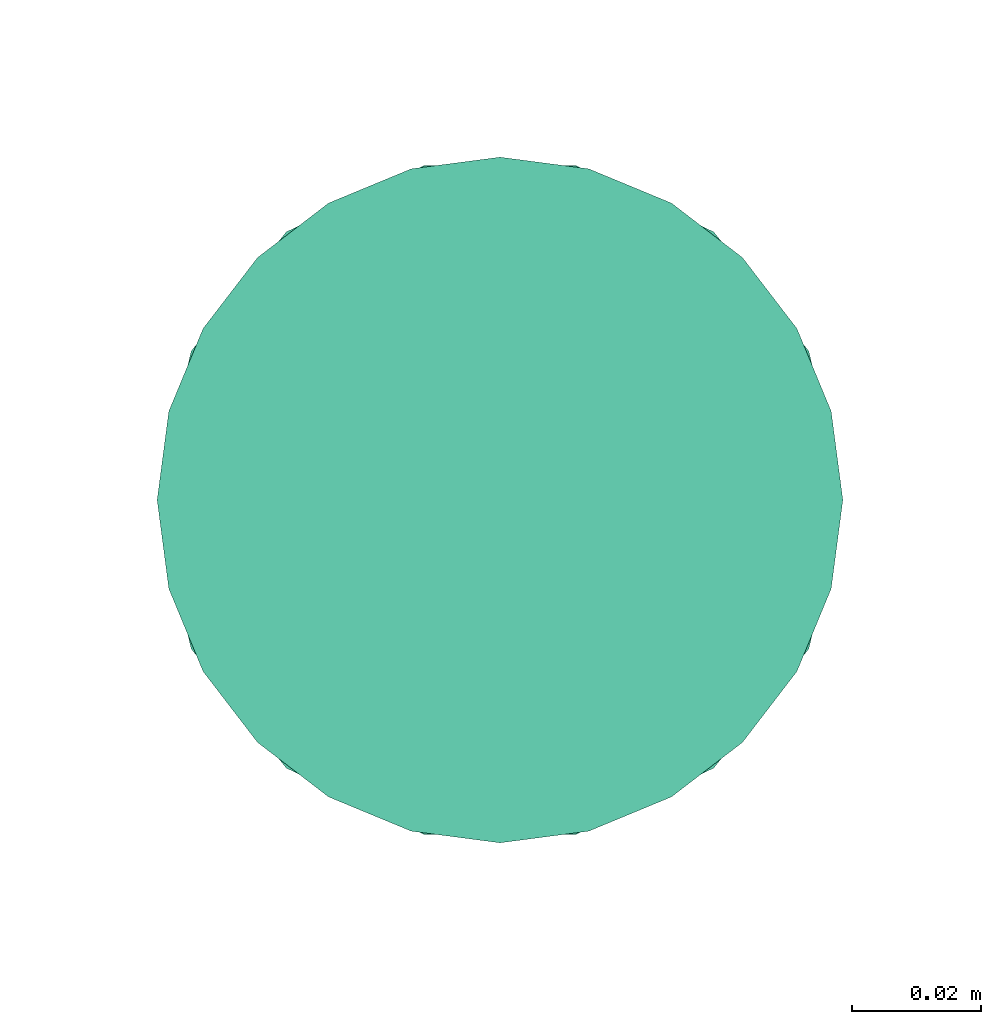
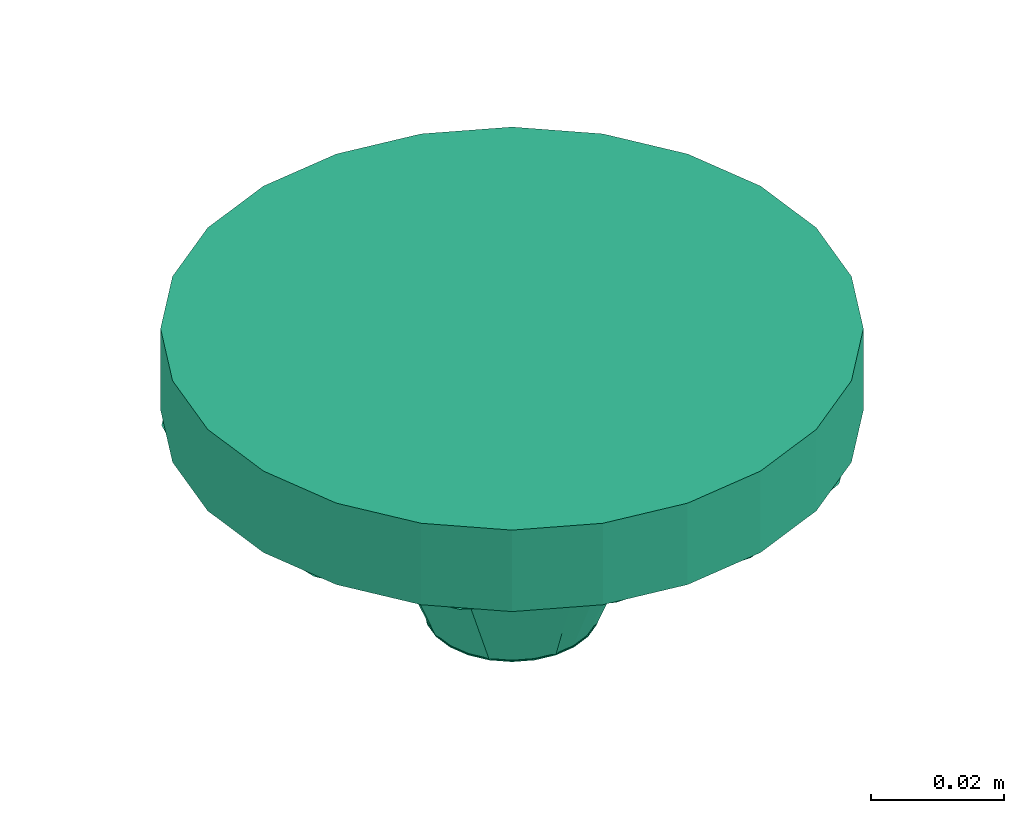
# One storey, part 3 of 4: 1 distribution control element.
"""IFC2X3 building model written with IfcOpenShell, lengths in millimetres."""

from ifc_helpers import new_model, entity, si_unit, converted_unit, derived_unit, direction, frame, origin_with_axes, place, context, subcontext, project, spatial, open_shell, surface_model, source, transform, mapped, type_object, element, save


model = new_model("IFC2X3")

# Units and contexts
model_context = context("Model", 3, precision=0.01, world=frame((0.0, 4.29681676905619e-09, 0.0)), true_north=direction((4.01073788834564e-13, 1.0)))
plan_context = context("Plan", 3, precision=0.01, world=frame((0.0, 4.29681676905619e-09, 0.0)), true_north=direction((4.01073788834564e-13, 1.0)))
body_context = subcontext(model_context, "Body", "Model", "MODEL_VIEW")
ifc_project = project(units=[converted_unit("PLANEANGLEUNIT", "DEGREE", entity("IfcPositiveLengthMeasure", 0.0174532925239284), si_unit("PLANEANGLEUNIT", "RADIAN"), dimensions=[0, 0, 0, 0, 0, 0, 0]), si_unit("AREAUNIT", "SQUARE_METRE"), si_unit("LENGTHUNIT", "METRE", prefix="MILLI"), si_unit("MASSUNIT", "GRAM", prefix="KILO"), si_unit("POWERUNIT", "WATT"), si_unit("PRESSUREUNIT", "PASCAL", prefix="KILO"), si_unit("FORCEUNIT", "NEWTON", prefix="KILO"), si_unit("ELECTRICVOLTAGEUNIT", "VOLT"), si_unit("ELECTRICCURRENTUNIT", "AMPERE"), si_unit("THERMODYNAMICTEMPERATUREUNIT", "DEGREE_CELSIUS"), si_unit("TIMEUNIT", "SECOND"), si_unit("VOLUMEUNIT", "CUBIC_METRE"), derived_unit("LINEARVELOCITYUNIT", [(si_unit("LENGTHUNIT", "METRE"), 1), (si_unit("TIMEUNIT", "SECOND"), -1)]), derived_unit("VOLUMETRICFLOWRATEUNIT", [(si_unit("VOLUMEUNIT", "CUBIC_METRE"), 1), (si_unit("TIMEUNIT", "SECOND"), -1)]), derived_unit("THERMALTRANSMITTANCEUNIT", [(si_unit("POWERUNIT", "WATT"), 1), (si_unit("THERMODYNAMICTEMPERATUREUNIT", "KELVIN"), -1), (si_unit("AREAUNIT", "SQUARE_METRE"), -1)]), derived_unit("SOUNDPRESSUREUNIT", [(si_unit("PRESSUREUNIT", "PASCAL"), 1)])], contexts=[model_context, plan_context])

# Site, building, storey
site_placement = place(None, frame((0.0, -4.29681676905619e-09, 0.0), z_axis=(0.0, 0.0, 1.0), x_axis=(1.0, 0.0, 0.0)))
site = spatial("IfcSite", under=ifc_project, at=site_placement, Name="ENGM", CompositionType="ELEMENT")
building_placement = place(site_placement, frame((0.0, 4.29681676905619e-09, 0.0), z_axis=(0.0, 0.0, 1.0), x_axis=(1.0, 0.0, 0.0)))
building = spatial("IfcBuilding", under=site, at=building_placement, Name="TS", CompositionType="ELEMENT")
storey_placement = place(building_placement, frame((0.0, 0.0, 210900.0), z_axis=(0.0, 0.0, 1.0), x_axis=(1.0, 0.0, 0.0)))
storey = spatial("IfcBuildingStorey", under=building, at=storey_placement, Name="Nivå F", CompositionType="ELEMENT", Elevation=210900.0)

# Distribution control element
alarm_type = type_object("IfcAlarmType", Name="Standard", PredefinedType="NOTDEFINED")
shared_shape = source(origin_with_axes(), body_context, "Body", "SurfaceModel", [
    surface_model("IfcShellBasedSurfaceModel", [(3.42935, -12.79852, -51.9), (6.625, -11.47484, -51.9), (9.36916, -9.36916, -51.9), (-6.625, -11.47484, -51.9), (12.79852, 3.42935, -51.9), (12.79852, -3.42935, -51.9), (11.47484, -6.625, -51.9), (-3.42935, -12.79852, -51.9), (0.0, -13.25, -51.9), (-9.36916, -9.36916, -51.9), (-13.25, 0.0, -51.9), (-11.47484, -6.625, -51.9), (-12.79852, 3.42935, -51.9), (-12.79852, -3.42935, -51.9), (13.25, 0.0, -51.9), (0.0, 13.25, -51.9), (11.47484, 6.625, -51.9), (9.36916, 9.36916, -51.9), (6.625, 11.47484, -51.9), (3.42935, 12.79852, -51.9), (-6.625, 11.47484, -51.9), (-9.36916, 9.36916, -51.9), (-11.47484, 6.625, -51.9), (-3.42935, 12.79852, -51.9), (0.0, 13.25, -52.1), (3.42935, 12.79852, -52.1), (6.625, 11.47484, -52.1), (-12.79852, 3.42935, -52.1), (11.47484, 6.625, -52.1), (12.79852, 3.42935, -52.1), (9.36916, 9.36916, -52.1), (-6.625, 11.47484, -52.1), (-9.36916, 9.36916, -52.1), (-3.42935, 12.79852, -52.1), (-11.47484, 6.625, -52.1), (-9.36916, -9.36916, -52.1), (-13.25, 0.0, -52.1), (-6.625, -11.47484, -52.1), (12.79852, -3.42935, -52.1), (9.36916, -9.36916, -52.1), (11.47484, -6.625, -52.1), (6.625, -11.47484, -52.1), (3.42935, -12.79852, -52.1), (-3.42935, -12.79852, -52.1), (-11.47484, -6.625, -52.1), (-12.79852, -3.42935, -52.1), (0.0, -13.25, -52.1), (13.25, 0.0, -52.1), (-20.25421, 16.43708, -19.0), (-13.15, 22.77647, -19.0), (-18.59691, 18.59691, -19.0), (-25.40385, 6.80694, -19.0), (-26.16376, 1.03484, -19.0), (-21.82398, 14.3913, -19.0), (-26.5, 0.0, -19.0), (-26.3, 0.0, -19.0), (-21.43895, 15.57631, -19.0), (-9.37871, 24.33859, -19.0), (9.37871, 24.33859, -19.0), (20.25421, 16.43708, -19.0), (13.15, 22.77647, -19.0), (-7.29184, 25.203, -19.0), (0.0, 26.3, -19.0), (-6.80694, 25.40385, -19.0), (7.29184, 25.203, -19.0), (21.82398, 14.3913, -19.0), (25.40385, 6.80694, -19.0), (22.77647, 13.15, -19.0), (8.18895, 25.203, -19.0), (26.5, 0.0, -19.0), (26.16376, 1.03484, -19.0), (26.3, 0.0, -19.0), (25.40385, -6.80694, -19.0), (21.82398, -14.3913, -19.0), (22.77647, -13.15, -19.0), (8.18895, -25.203, -19.0), (9.37871, -24.33859, -19.0), (7.29184, -25.203, -19.0), (6.80694, 25.40385, -19.0), (-26.16376, -1.03484, -19.0), (-22.77647, 13.15, -19.0), (-13.15, -22.77647, -19.0), (-9.37871, -24.33859, -19.0), (-20.25421, -16.43708, -19.0), (-25.40385, -6.80694, -19.0), (-21.82398, -14.3913, -19.0), (0.0, -26.3, -19.0), (6.80694, -25.40385, -19.0), (-7.29184, -25.203, -19.0), (-8.18895, -25.203, -19.0), (26.16376, -1.03484, -19.0), (-18.59691, -18.59691, -19.0), (21.43895, -15.57631, -19.0), (20.25421, -16.43708, -19.0), (13.15, -22.77647, -19.0), (18.59691, -18.59691, -19.0), (-8.18895, 25.203, -19.0), (-6.80694, -25.40385, -19.0), (-21.43895, -15.57631, -19.0), (-22.77647, -13.15, -19.0), (18.59691, 18.59691, -19.0), (21.43895, 15.57631, -19.0), (0.70781, 12.95681, -52.0), (0.0, 13.05, -52.0), (0.0, 13.25, -52.0), (3.37759, 12.60533, -52.0), (6.525, 11.30163, -52.0), (8.66135, 9.66235, -52.0), (9.36916, 9.36916, -52.0), (9.66235, 8.66135, -52.0), (9.22774, 9.22774, -52.0), (12.95681, 0.70781, -52.0), (13.25, 0.0, -52.0), (13.05, 0.0, -52.0), (12.60533, 3.37759, -52.0), (11.30163, 6.525, -52.0), (-13.05, 0.0, -52.0), (-12.95681, -0.70781, -52.0), (-13.25, 0.0, -52.0), (-6.525, 11.30163, -52.0), (-3.37759, 12.60533, -52.0), (-0.70781, 12.95681, -52.0), (-8.66135, 9.66235, -52.0), (-9.22774, 9.22774, -52.0), (-9.36916, 9.36916, -52.0), (-11.30163, 6.525, -52.0), (-9.66235, 8.66135, -52.0), (-12.60533, 3.37759, -52.0), (-12.95681, 0.70781, -52.0), (-11.30163, -6.525, -52.0), (-9.66235, -8.66135, -52.0), (12.95681, -0.70781, -52.0), (11.30163, -6.525, -52.0), (9.66235, -8.66135, -52.0), (9.36916, -9.36916, -52.0), (9.22774, -9.22774, -52.0), (8.66135, -9.66235, -52.0), (3.37759, -12.60533, -52.0), (0.70781, -12.95681, -52.0), (0.0, -13.25, -52.0), (0.0, -13.05, -52.0), (12.60533, -3.37759, -52.0), (-0.70781, -12.95681, -52.0), (-12.60533, -3.37759, -52.0), (-9.22774, -9.22774, -52.0), (-9.36916, -9.36916, -52.0), (-6.525, -11.30163, -52.0), (-3.37759, -12.60533, -52.0), (6.525, -11.30163, -52.0), (-8.66135, -9.66235, -52.0), (10.33937, -7.02687, -52.0), (-11.30958, -4.68458, -52.0), (-23.96948, -7.78815, -19.0), (11.30958, -4.68458, -52.0), (23.96948, -7.78815, -19.0), (22.70421, -11.68223, -19.0), (-14.81395, -20.38965, -19.0), (-7.02687, -10.33937, -52.0), (-4.68458, -11.30958, -52.0), (-2.34229, -12.27979, -52.0), (0.0, -25.203, -19.0), (2.34229, -12.27979, -52.0), (-10.33937, -7.02687, -52.0), (4.68458, -11.30958, -52.0), (12.27979, -2.34229, -52.0), (14.81395, -20.38965, -19.0), (7.02687, -10.33937, -52.0), (-12.27979, -2.34229, -52.0), (-10.33937, 7.02687, -52.0), (11.30958, 4.68458, -52.0), (23.96948, 7.78815, -19.0), (-11.30958, 4.68458, -52.0), (-23.96948, 7.78815, -19.0), (-22.70421, 11.68223, -19.0), (14.81395, 20.38965, -19.0), (7.02687, 10.33937, -52.0), (4.68458, 11.30958, -52.0), (2.34229, 12.27979, -52.0), (0.0, 25.203, -19.0), (-2.34229, 12.27979, -52.0), (10.33937, 7.02687, -52.0), (-4.68458, 11.30958, -52.0), (-12.27979, 2.34229, -52.0), (-14.81395, 20.38965, -19.0), (-7.02687, 10.33937, -52.0), (12.27979, 2.34229, -52.0), (-11.79361, 51.67118, -15.0), (-33.04496, 41.43707, -15.0), (-47.75135, 22.99584, -15.0), (11.79361, -51.67118, -15.0), (11.79361, 51.67118, -15.0), (47.75135, 22.99584, -15.0), (33.04496, 41.43707, -15.0), (47.75135, -22.99584, -15.0), (-53.0, 0.0, -15.0), (-47.75135, -22.99584, -15.0), (-33.04496, -41.43707, -15.0), (-11.79361, -51.67118, -15.0), (53.0, 0.0, -15.0), (33.04496, -41.43707, -15.0), (-40.39816, -32.21645, -15.0), (-22.41928, -46.55413, -15.0), (-50.37568, -11.49792, -15.0), (22.41928, -46.55413, -15.0), (50.37568, -11.49792, -15.0), (40.39816, -32.21645, -15.0), (0.0, -51.67118, -15.0), (40.39816, 32.21645, -15.0), (22.41928, 46.55413, -15.0), (50.37568, 11.49792, -15.0), (-22.41928, 46.55413, -15.0), (-50.37568, 11.49792, -15.0), (-40.39816, 32.21645, -15.0), (0.0, 51.67118, -15.0), (13.71741, -51.19407, 0.0), (26.5, -45.89935, 0.0), (37.47666, -37.47666, 0.0), (-26.5, -45.89935, 0.0), (51.19407, 13.71741, 0.0), (51.19407, -13.71741, 0.0), (45.89935, -26.5, 0.0), (-13.71741, -51.19407, 0.0), (0.0, -53.0, 0.0), (-37.47666, -37.47666, 0.0), (-53.0, 0.0, 0.0), (-45.89935, -26.5, 0.0), (-51.19407, 13.71741, 0.0), (-51.19407, -13.71741, 0.0), (53.0, 0.0, 0.0), (0.0, 53.0, 0.0), (45.89935, 26.5, 0.0), (37.47666, 37.47666, 0.0), (26.5, 45.89935, 0.0), (13.71741, 51.19407, 0.0), (-26.5, 45.89935, 0.0), (-37.47666, 37.47666, 0.0), (-45.89935, 26.5, 0.0), (-13.71741, 51.19407, 0.0), (0.0, 53.0, -15.0), (13.71741, 51.19407, -15.0), (26.5, 45.89935, -15.0), (-51.19407, 13.71741, -15.0), (45.89935, 26.5, -15.0), (51.19407, 13.71741, -15.0), (37.47666, 37.47666, -15.0), (-26.5, 45.89935, -15.0), (-37.47666, 37.47666, -15.0), (-13.71741, 51.19407, -15.0), (-45.89935, 26.5, -15.0), (-37.47666, -37.47666, -15.0), (-26.5, -45.89935, -15.0), (51.19407, -13.71741, -15.0), (37.47666, -37.47666, -15.0), (45.89935, -26.5, -15.0), (26.5, -45.89935, -15.0), (13.71741, -51.19407, -15.0), (-13.71741, -51.19407, -15.0), (-45.89935, -26.5, -15.0), (-51.19407, -13.71741, -15.0), (0.0, -53.0, -15.0)], [open_shell([[[0, 1, 2]], [[3, 0, 2]], [[3, 2, 4]], [[5, 2, 6]], [[2, 5, 4]], [[0, 7, 8]], [[0, 3, 7]], [[9, 10, 11]], [[9, 3, 12]], [[11, 10, 13]], [[14, 4, 5]], [[15, 4, 16]], [[15, 16, 17]], [[18, 19, 15]], [[18, 15, 17]], [[4, 15, 20]], [[12, 21, 22]], [[10, 9, 12]], [[12, 20, 21]], [[12, 4, 20]], [[23, 20, 15]], [[12, 3, 4]], [[24, 25, 26]], [[27, 24, 26]], [[28, 29, 26]], [[28, 26, 30]], [[27, 26, 29]], [[31, 27, 32]], [[31, 33, 24]], [[32, 27, 34]], [[24, 27, 31]], [[27, 35, 36]], [[27, 29, 37]], [[38, 39, 29]], [[39, 38, 40]], [[39, 41, 42]], [[39, 37, 29]], [[42, 43, 39]], [[36, 35, 44]], [[45, 36, 44]], [[39, 43, 37]], [[37, 35, 27]], [[46, 43, 42]], [[29, 47, 38]], [[45, 13, 36]], [[44, 11, 45]], [[3, 35, 37]], [[44, 35, 9]], [[7, 37, 43]], [[45, 11, 13]], [[13, 10, 36]], [[7, 3, 37]], [[9, 35, 3]], [[9, 11, 44]], [[8, 7, 43]], [[43, 46, 8]], [[42, 0, 46]], [[41, 1, 42]], [[6, 39, 40]], [[41, 39, 2]], [[5, 40, 38]], [[41, 2, 1]], [[1, 0, 42]], [[14, 5, 38]], [[6, 40, 5]], [[6, 2, 39]], [[47, 14, 38]], [[46, 0, 8]], [[29, 4, 47]], [[28, 16, 29]], [[18, 30, 26]], [[28, 30, 17]], [[19, 26, 25]], [[29, 16, 4]], [[4, 14, 47]], [[19, 18, 26]], [[17, 30, 18]], [[17, 16, 28]], [[15, 19, 25]], [[25, 24, 15]], [[33, 23, 24]], [[31, 20, 33]], [[22, 32, 34]], [[31, 32, 21]], [[12, 34, 27]], [[31, 21, 20]], [[20, 23, 33]], [[10, 12, 27]], [[22, 34, 12]], [[22, 21, 32]], [[36, 10, 27]], [[24, 23, 15]], [[48, 49, 50]], [[51, 52, 53]], [[52, 54, 55]], [[56, 53, 48]], [[49, 48, 57]], [[58, 59, 60]], [[61, 62, 63]], [[62, 61, 64]], [[65, 66, 67]], [[64, 58, 68]], [[69, 70, 71]], [[72, 73, 74]], [[75, 76, 77]], [[62, 64, 78]], [[55, 54, 79]], [[51, 53, 80]], [[81, 82, 83]], [[84, 85, 79]], [[86, 87, 77]], [[88, 82, 89]], [[90, 73, 72]], [[69, 71, 90]], [[81, 83, 91]], [[92, 73, 93]], [[93, 94, 95]], [[96, 57, 61]], [[77, 88, 86]], [[86, 88, 97]], [[83, 85, 98]], [[99, 85, 84]], [[94, 93, 76]], [[60, 59, 100]], [[59, 65, 101]], [[66, 65, 70]], [[102, 103, 104]], [[105, 106, 107]], [[108, 109, 110]], [[111, 112, 113]], [[114, 109, 115]], [[110, 107, 108]], [[114, 111, 109]], [[116, 117, 118]], [[119, 120, 121]], [[122, 123, 124]], [[125, 126, 127]], [[128, 116, 118]], [[129, 117, 130]], [[105, 107, 102]], [[113, 112, 131]], [[131, 132, 133]], [[133, 134, 135]], [[136, 135, 134]], [[136, 137, 138]], [[138, 139, 140]], [[132, 131, 141]], [[140, 139, 142]], [[129, 143, 117]], [[144, 145, 130]], [[146, 142, 147]], [[137, 136, 148]], [[144, 149, 145]], [[149, 142, 146]], [[103, 121, 104]], [[119, 121, 122]], [[123, 126, 124]], [[127, 126, 128]], [[92, 134, 150]], [[151, 98, 152]], [[153, 154, 155]], [[156, 157, 158]], [[89, 159, 160]], [[160, 161, 75]], [[160, 159, 139]], [[162, 145, 98]], [[158, 89, 156]], [[161, 163, 75]], [[69, 164, 112]], [[134, 92, 165]], [[165, 163, 166]], [[69, 154, 164]], [[98, 151, 162]], [[54, 167, 152]], [[167, 54, 118]], [[161, 160, 139]], [[89, 158, 159]], [[156, 98, 145]], [[153, 164, 154]], [[92, 150, 155]], [[150, 153, 155]], [[156, 145, 157]], [[163, 165, 75]], [[166, 134, 165]], [[167, 151, 152]], [[56, 124, 168]], [[169, 101, 170]], [[171, 172, 173]], [[174, 175, 176]], [[68, 177, 178]], [[178, 179, 96]], [[178, 177, 104]], [[180, 108, 101]], [[176, 68, 174]], [[179, 181, 96]], [[54, 182, 118]], [[124, 56, 183]], [[183, 181, 184]], [[54, 172, 182]], [[101, 169, 180]], [[69, 185, 170]], [[185, 69, 112]], [[179, 178, 104]], [[68, 176, 177]], [[174, 101, 108]], [[171, 182, 172]], [[56, 168, 173]], [[168, 171, 173]], [[174, 108, 175]], [[181, 183, 96]], [[184, 124, 183]], [[185, 169, 170]], [[144, 129, 91]], [[129, 143, 99]], [[147, 146, 97]], [[81, 146, 144]], [[140, 147, 97]], [[84, 116, 55]], [[84, 143, 116]], [[81, 144, 91]], [[99, 143, 84]], [[91, 129, 99]], [[81, 97, 146]], [[97, 86, 140]], [[94, 135, 148]], [[87, 148, 137]], [[72, 113, 141]], [[74, 141, 132]], [[95, 132, 135]], [[86, 87, 137]], [[87, 94, 148]], [[94, 95, 135]], [[95, 74, 132]], [[141, 74, 72]], [[72, 71, 113]], [[140, 86, 137]], [[110, 115, 100]], [[115, 114, 67]], [[105, 106, 78]], [[60, 106, 110]], [[103, 105, 78]], [[66, 113, 71]], [[66, 114, 113]], [[60, 110, 100]], [[67, 114, 66]], [[100, 115, 67]], [[60, 78, 106]], [[78, 62, 103]], [[49, 123, 119]], [[63, 119, 120]], [[51, 116, 127]], [[80, 127, 125]], [[50, 125, 123]], [[62, 63, 120]], [[63, 49, 119]], [[49, 50, 123]], [[50, 80, 125]], [[127, 80, 51]], [[51, 55, 116]], [[103, 62, 120]], [[186, 187, 188]], [[188, 189, 186]], [[190, 186, 191]], [[191, 192, 190]], [[191, 186, 193]], [[188, 194, 189]], [[195, 196, 197]], [[195, 197, 189]], [[191, 193, 198]], [[189, 199, 193]], [[189, 193, 186]], [[194, 195, 189]], [[54, 68, 98]], [[96, 54, 56]], [[54, 96, 68]], [[68, 101, 69]], [[69, 92, 75]], [[98, 75, 89]], [[75, 98, 69]], [[69, 98, 68]], [[196, 98, 156]], [[200, 195, 98]], [[89, 197, 201]], [[202, 194, 54]], [[92, 199, 165]], [[193, 92, 154]], [[203, 165, 199]], [[98, 196, 200]], [[201, 156, 89]], [[196, 156, 201]], [[75, 189, 160]], [[165, 203, 75]], [[189, 75, 203]], [[204, 69, 198]], [[54, 152, 202]], [[92, 193, 205]], [[160, 206, 197]], [[69, 204, 154]], [[92, 205, 199]], [[152, 98, 195]], [[152, 195, 202]], [[160, 197, 89]], [[204, 193, 154]], [[160, 189, 206]], [[192, 101, 174]], [[207, 191, 101]], [[68, 190, 208]], [[209, 198, 69]], [[56, 187, 183]], [[188, 56, 172]], [[210, 183, 187]], [[101, 192, 207]], [[208, 174, 68]], [[192, 174, 208]], [[96, 186, 178]], [[183, 210, 96]], [[186, 96, 210]], [[211, 54, 194]], [[69, 170, 209]], [[56, 188, 212]], [[178, 213, 190]], [[54, 211, 172]], [[56, 212, 187]], [[170, 101, 191]], [[170, 191, 209]], [[178, 190, 68]], [[211, 188, 172]], [[178, 186, 213]], [[214, 215, 216]], [[217, 214, 216]], [[217, 216, 218]], [[219, 216, 220]], [[216, 219, 218]], [[214, 221, 222]], [[214, 217, 221]], [[223, 224, 225]], [[223, 217, 226]], [[225, 224, 227]], [[228, 218, 219]], [[229, 218, 230]], [[229, 230, 231]], [[232, 233, 229]], [[232, 229, 231]], [[218, 229, 234]], [[226, 235, 236]], [[224, 223, 226]], [[226, 234, 235]], [[226, 218, 234]], [[237, 234, 229]], [[226, 217, 218]], [[238, 239, 240]], [[241, 238, 240]], [[242, 243, 240]], [[242, 240, 244]], [[241, 240, 243]], [[245, 241, 246]], [[245, 247, 238]], [[246, 241, 248]], [[238, 241, 245]], [[241, 249, 194]], [[241, 243, 250]], [[251, 252, 243]], [[252, 251, 253]], [[252, 254, 255]], [[252, 250, 243]], [[255, 256, 252]], [[194, 249, 257]], [[258, 194, 257]], [[252, 256, 250]], [[250, 249, 241]], [[259, 256, 255]], [[243, 198, 251]], [[258, 227, 194]], [[257, 225, 258]], [[217, 249, 250]], [[257, 249, 223]], [[221, 250, 256]], [[258, 225, 227]], [[227, 224, 194]], [[221, 217, 250]], [[223, 249, 217]], [[223, 225, 257]], [[222, 221, 256]], [[256, 259, 222]], [[255, 214, 259]], [[254, 215, 255]], [[220, 252, 253]], [[254, 252, 216]], [[219, 253, 251]], [[254, 216, 215]], [[215, 214, 255]], [[228, 219, 251]], [[220, 253, 219]], [[220, 216, 252]], [[198, 228, 251]], [[259, 214, 222]], [[243, 218, 198]], [[242, 230, 243]], [[232, 244, 240]], [[242, 244, 231]], [[233, 240, 239]], [[243, 230, 218]], [[218, 228, 198]], [[233, 232, 240]], [[231, 244, 232]], [[231, 230, 242]], [[229, 233, 239]], [[239, 238, 229]], [[247, 237, 238]], [[245, 234, 247]], [[236, 246, 248]], [[245, 246, 235]], [[226, 248, 241]], [[245, 235, 234]], [[234, 237, 247]], [[224, 226, 241]], [[236, 248, 226]], [[236, 235, 246]], [[194, 224, 241]], [[238, 237, 229]]])]),
])
distribution_control_element_placement = place(storey_placement, frame((718040.0, 435472.85335, 3050.0), z_axis=(0.0, 0.0, 1.0), x_axis=(1.0, 0.0, 0.0)))
element("IfcDistributionControlElement", 1, at=distribution_control_element_placement, inside=storey, type_object=alarm_type, Name="Standard", context=body_context, shape_type="MappedRepresentation", body=[
    mapped(shared_shape, transform((0.0, 0.0, 0.0), scale=1.0)),
])

save(model, "model.ifc")
